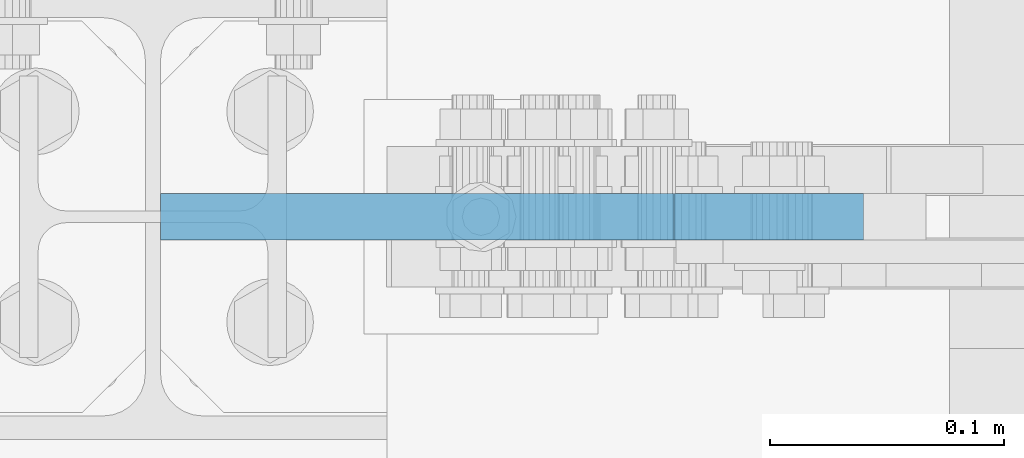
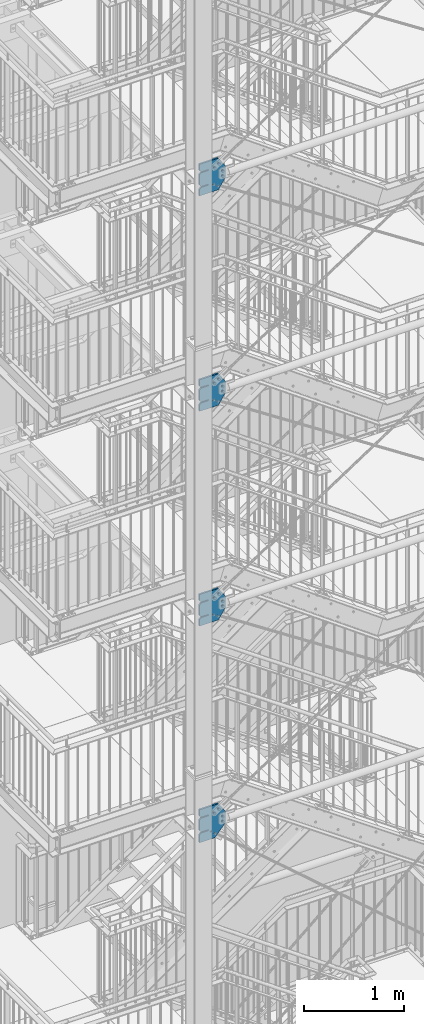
# One storey, part 154 of 821: 4 plates, 32 openings.
"""IFC2X3 building model written with IfcOpenShell, lengths in millimetres."""

from ifc_helpers import new_model, entity, si_unit, converted_unit, point, frame, frame_2d, origin, origin_with_axes, place, context, project, spatial, polyline, circle_curve, line_curve, trimmed, segment, composite_curve, circle, outline, extrude, material, layer, layer_set, element, save


model = new_model("IFC2X3")

# Units and contexts
model_context = context("Model", 3, precision=1e-09, world=origin_with_axes())
ifc_project = project(units=[si_unit("LENGTHUNIT", "METRE", prefix="MILLI"), si_unit("AREAUNIT", "SQUARE_METRE"), si_unit("VOLUMEUNIT", "CUBIC_METRE"), converted_unit("PLANEANGLEUNIT", "DEGREE", entity("IfcPlaneAngleMeasure", 0.01745329), si_unit("PLANEANGLEUNIT", "RADIAN"), dimensions=[0, 0, 0, 0, 0, 0, 0])], contexts=[model_context])

# Site, building, storey
site_placement = place(None, origin_with_axes())
site = spatial("IfcSite", under=ifc_project, at=site_placement, Name="Cnopf'sche Kinderklinik", CompositionType="ELEMENT")
building_placement = place(site_placement, origin_with_axes())
building = spatial("IfcBuilding", under=site, at=building_placement, Name="Struktur 1", CompositionType="ELEMENT")
storey_placement = place(building_placement, origin_with_axes())
storey = spatial("IfcBuildingStorey", under=building, at=storey_placement, Name="Default Storey", CompositionType="ELEMENT", Elevation=0.0)

# Plate, openings
ifc_material = material(Name="S235JR")
ifc_layer = layer(ifc_material, 20.0)
ifc_layer_set = layer_set([ifc_layer], Name="S235JR")
plate_1_placement = place(None, frame((4859.963402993, 4376.736971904, 7178.428402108), z_axis=(0.0, -1.0, 0.0), x_axis=(0.0, 0.0, -1.0)))
plate_1 = element("IfcPlate", 1, at=plate_1_placement, inside=storey, material=ifc_layer_set, Name="-", ObjectType="-", context=model_context, shape_type="SweptSolid", body=[
    extrude(outline(polyline([(0.0, 0.0), (404.06512209, 0.0), (404.06512209, 177.249749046), (263.428405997, 300.0), (123.428405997, 300.0), (0.0, 219.202103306), (0.0, 0.0)])), origin_with_axes(), (0.0, 0.0, 1.0), 20.0),
])
opening_1_placement = place(plate_1_placement, frame((0.0, 0.0, 20.1), z_axis=(0.0, 0.0, -1.0), x_axis=(0.0, -1.0, 0.0)))
element("IfcOpeningElement", 2, at=opening_1_placement, cuts=plate_1, ObjectType="Opening", context=model_context, shape_type="SweptSolid", body=[
    extrude(outline(composite_curve([segment(trimmed(line_curve((20.001, -257.427402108), (-1.0, 0.0), 20.001414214), [point((20.001, -257.427402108))], [point((-0.000414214, -257.427402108))], True, "CARTESIAN"), True, "CONTINUOUS"), segment(trimmed(line_curve((-0.000414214, -257.427402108), (-0.707106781, -0.707106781), 28.284271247), [point((-0.000414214, -257.427402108))], [point((-20.000414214, -277.427402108))], True, "CARTESIAN"), True, "CONTINUOUS"), segment(trimmed(line_curve((-20.000414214, -277.427402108), (-1.0, 0.0), 77.749584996), [point((-20.000414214, -277.427402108))], [point((-97.749999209, -277.427402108))], True, "CARTESIAN"), True, "CONTINUOUS"), segment(trimmed(circle_curve(frame_2d((-97.75, -283.428402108), x_axis=(1.0, 0.0)), 6.001), [point((-97.749999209, -277.427402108))], [point((-97.75, -289.429402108))], True, "CARTESIAN"), True, "CONTINUOUS"), segment(trimmed(line_curve((-97.75, -289.429402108), (1.0, 0.0), 77.749585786), [point((-97.75, -289.429402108))], [point((-20.000414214, -289.429402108))], True, "CARTESIAN"), True, "CONTINUOUS"), segment(trimmed(line_curve((-20.000414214, -289.429402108), (0.707106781, -0.707106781), 28.284271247), [point((-20.000414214, -289.429402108))], [point((-0.000414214, -309.429402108))], True, "CARTESIAN"), True, "CONTINUOUS"), segment(trimmed(line_curve((-0.000414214, -309.429402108), (1.0, 0.0), 20.001414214), [point((-0.000414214, -309.429402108))], [point((20.001, -309.429402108))], True, "CARTESIAN"), True, "CONTINUOUS"), segment(trimmed(line_curve((20.001, -309.429402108), (0.0, 1.0), 52.002), [point((20.001, -309.429402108))], [point((20.001, -257.427402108))], True, "CARTESIAN"), True, "CONTINUOUS")], self_intersect=False)), origin(), (0.0, 0.0, 1.0), 20.2),
])
opening_2_placement = place(plate_1_placement, frame((0.0, 0.0, 20.1), z_axis=(0.0, 0.0, -1.0), x_axis=(0.0, -1.0, 0.0)))
element("IfcOpeningElement", 3, at=opening_2_placement, cuts=plate_1, ObjectType="Opening", context=model_context, shape_type="SweptSolid", body=[
    extrude(outline(composite_curve([segment(trimmed(line_curve((20.001, -77.427402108), (-1.0, 0.0), 20.001414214), [point((20.001, -77.427402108))], [point((-0.000414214, -77.427402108))], True, "CARTESIAN"), True, "CONTINUOUS"), segment(trimmed(line_curve((-0.000414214, -77.427402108), (-0.707106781, -0.707106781), 28.284271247), [point((-0.000414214, -77.427402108))], [point((-20.000414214, -97.427402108))], True, "CARTESIAN"), True, "CONTINUOUS"), segment(trimmed(line_curve((-20.000414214, -97.427402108), (-1.0, 0.0), 77.749585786), [point((-20.000414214, -97.427402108))], [point((-97.75, -97.427402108))], True, "CARTESIAN"), True, "CONTINUOUS"), segment(trimmed(circle_curve(frame_2d((-97.75, -103.428402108), x_axis=(1.0, 0.0)), 6.001), [point((-97.75, -97.427402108))], [point((-97.75, -109.429402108))], True, "CARTESIAN"), True, "CONTINUOUS"), segment(trimmed(line_curve((-97.75, -109.429402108), (1.0, 0.0), 77.749585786), [point((-97.75, -109.429402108))], [point((-20.000414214, -109.429402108))], True, "CARTESIAN"), True, "CONTINUOUS"), segment(trimmed(line_curve((-20.000414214, -109.429402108), (0.707106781, -0.707106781), 28.284271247), [point((-20.000414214, -109.429402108))], [point((-0.000414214, -129.429402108))], True, "CARTESIAN"), True, "CONTINUOUS"), segment(trimmed(line_curve((-0.000414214, -129.429402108), (1.0, 0.0), 20.001414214), [point((-0.000414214, -129.429402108))], [point((20.001, -129.429402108))], True, "CARTESIAN"), True, "CONTINUOUS"), segment(trimmed(line_curve((20.001, -129.429402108), (0.0, 1.0), 52.002), [point((20.001, -129.429402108))], [point((20.001, -77.427402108))], True, "CARTESIAN"), True, "CONTINUOUS")], self_intersect=False)), origin(), (0.0, 0.0, 1.0), 20.2),
])
opening_3_placement = place(plate_1_placement, frame((163.428405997, 269.000998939, -0.5), z_axis=(0.0, 0.0, -1.0), x_axis=(-1.0, 0.0, 0.0)))
element("IfcOpeningElement", 4, at=opening_3_placement, cuts=plate_1, ObjectType="Opening", context=model_context, shape_type="SweptSolid", body=[
    extrude(circle(Radius=9.001, at=frame_2d((0.0, -9.001), x_axis=(1.0, 0.0))), origin(), (0.0, 0.0, -1.0), 21.0),
])
opening_4_placement = place(plate_1_placement, frame((223.428405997, 269.000998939, -0.5), z_axis=(0.0, 0.0, -1.0), x_axis=(-1.0, 0.0, 0.0)))
element("IfcOpeningElement", 5, at=opening_4_placement, cuts=plate_1, ObjectType="Opening", context=model_context, shape_type="SweptSolid", body=[
    extrude(circle(Radius=9.001, at=frame_2d((0.0, -9.001), x_axis=(1.0, 0.0))), origin(), (0.0, 0.0, -1.0), 21.0),
])
opening_5_placement = place(plate_1_placement, frame((68.933590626, 186.424883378, -0.5), z_axis=(0.0, 0.0, 1.0), x_axis=(-0.548720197, 0.836006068, 0.0)))
element("IfcOpeningElement", 6, at=opening_5_placement, cuts=plate_1, ObjectType="Opening", context=model_context, shape_type="SweptSolid", body=[
    extrude(circle(Radius=9.001, at=frame_2d((30.0, 0.0), x_axis=(1.0, 0.0))), origin(), (0.0, 0.0, 1.0), 21.0),
])
opening_6_placement = place(plate_1_placement, frame((68.933590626, 186.424883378, -0.5), z_axis=(0.0, 0.0, 1.0), x_axis=(-0.548720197, 0.836006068, 0.0)))
element("IfcOpeningElement", 7, at=opening_6_placement, cuts=plate_1, ObjectType="Opening", context=model_context, shape_type="SweptSolid", body=[
    extrude(circle(Radius=9.001, at=frame_2d((-30.0, 0.0), x_axis=(1.0, 0.0))), origin(), (0.0, 0.0, 1.0), 21.0),
])
opening_7_placement = place(plate_1_placement, frame((344.33129579, 170.985700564, -0.5), z_axis=(0.0, 0.0, -1.0), x_axis=(-1.0, 0.0, 0.0)))
element("IfcOpeningElement", 8, at=opening_7_placement, cuts=plate_1, ObjectType="Opening", context=model_context, shape_type="SweptSolid", body=[
    extrude(circle(Radius=9.001, at=frame_2d((-5.89276857, 6.803916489), x_axis=(1.0, 0.0))), origin(), (0.0, 0.0, -1.0), 21.0),
])
opening_8_placement = place(plate_1_placement, frame((305.05053652, 125.631296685, -0.5), z_axis=(0.0, 0.0, -1.0), x_axis=(-1.0, 0.0, 0.0)))
element("IfcOpeningElement", 9, at=opening_8_placement, cuts=plate_1, ObjectType="Opening", context=model_context, shape_type="SweptSolid", body=[
    extrude(circle(Radius=9.001, at=frame_2d((-5.89276857, 6.803916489), x_axis=(1.0, 0.0))), origin(), (0.0, 0.0, -1.0), 21.0),
])

plate_2_placement = place(None, frame((4859.963402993, 4376.736971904, 9810.428402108), z_axis=(0.0, -1.0, 0.0), x_axis=(0.0, 0.0, -1.0)))
plate_2 = element("IfcPlate", 10, at=plate_2_placement, inside=storey, material=ifc_layer_set, Name="-", ObjectType="-", context=model_context, shape_type="SweptSolid", body=[
    extrude(outline(polyline([(0.0, 0.0), (386.856811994, 0.0), (386.856811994, 219.202103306), (263.428405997, 300.0), (123.428405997, 300.0), (0.0, 219.202103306), (0.0, 0.0)])), origin_with_axes(), (0.0, 0.0, 1.0), 20.0),
])
opening_9_placement = place(plate_2_placement, frame((0.0, 0.0, 20.1), z_axis=(0.0, 0.0, -1.0), x_axis=(0.0, -1.0, 0.0)))
element("IfcOpeningElement", 11, at=opening_9_placement, cuts=plate_2, ObjectType="Opening", context=model_context, shape_type="SweptSolid", body=[
    extrude(outline(composite_curve([segment(trimmed(line_curve((20.001, -257.427402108), (-1.0, 0.0), 20.001414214), [point((20.001, -257.427402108))], [point((-0.000414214, -257.427402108))], True, "CARTESIAN"), True, "CONTINUOUS"), segment(trimmed(line_curve((-0.000414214, -257.427402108), (-0.707106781, -0.707106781), 28.284271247), [point((-0.000414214, -257.427402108))], [point((-20.000414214, -277.427402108))], True, "CARTESIAN"), True, "CONTINUOUS"), segment(trimmed(line_curve((-20.000414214, -277.427402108), (-1.0, 0.0), 77.749584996), [point((-20.000414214, -277.427402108))], [point((-97.749999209, -277.427402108))], True, "CARTESIAN"), True, "CONTINUOUS"), segment(trimmed(circle_curve(frame_2d((-97.75, -283.428402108), x_axis=(1.0, 0.0)), 6.001), [point((-97.749999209, -277.427402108))], [point((-97.75, -289.429402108))], True, "CARTESIAN"), True, "CONTINUOUS"), segment(trimmed(line_curve((-97.75, -289.429402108), (1.0, 0.0), 77.749585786), [point((-97.75, -289.429402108))], [point((-20.000414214, -289.429402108))], True, "CARTESIAN"), True, "CONTINUOUS"), segment(trimmed(line_curve((-20.000414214, -289.429402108), (0.707106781, -0.707106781), 28.284271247), [point((-20.000414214, -289.429402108))], [point((-0.000414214, -309.429402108))], True, "CARTESIAN"), True, "CONTINUOUS"), segment(trimmed(line_curve((-0.000414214, -309.429402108), (1.0, 0.0), 20.001414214), [point((-0.000414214, -309.429402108))], [point((20.001, -309.429402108))], True, "CARTESIAN"), True, "CONTINUOUS"), segment(trimmed(line_curve((20.001, -309.429402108), (0.0, 1.0), 52.002), [point((20.001, -309.429402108))], [point((20.001, -257.427402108))], True, "CARTESIAN"), True, "CONTINUOUS")], self_intersect=False)), origin(), (0.0, 0.0, 1.0), 20.2),
])
opening_10_placement = place(plate_2_placement, frame((0.0, 0.0, 20.1), z_axis=(0.0, 0.0, -1.0), x_axis=(0.0, -1.0, 0.0)))
element("IfcOpeningElement", 12, at=opening_10_placement, cuts=plate_2, ObjectType="Opening", context=model_context, shape_type="SweptSolid", body=[
    extrude(outline(composite_curve([segment(trimmed(line_curve((20.001, -77.427402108), (-1.0, 0.0), 20.001414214), [point((20.001, -77.427402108))], [point((-0.000414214, -77.427402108))], True, "CARTESIAN"), True, "CONTINUOUS"), segment(trimmed(line_curve((-0.000414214, -77.427402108), (-0.707106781, -0.707106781), 28.284271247), [point((-0.000414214, -77.427402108))], [point((-20.000414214, -97.427402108))], True, "CARTESIAN"), True, "CONTINUOUS"), segment(trimmed(line_curve((-20.000414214, -97.427402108), (-1.0, 0.0), 77.749585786), [point((-20.000414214, -97.427402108))], [point((-97.75, -97.427402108))], True, "CARTESIAN"), True, "CONTINUOUS"), segment(trimmed(circle_curve(frame_2d((-97.75, -103.428402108), x_axis=(1.0, 0.0)), 6.001), [point((-97.75, -97.427402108))], [point((-97.75, -109.429402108))], True, "CARTESIAN"), True, "CONTINUOUS"), segment(trimmed(line_curve((-97.75, -109.429402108), (1.0, 0.0), 77.749585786), [point((-97.75, -109.429402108))], [point((-20.000414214, -109.429402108))], True, "CARTESIAN"), True, "CONTINUOUS"), segment(trimmed(line_curve((-20.000414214, -109.429402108), (0.707106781, -0.707106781), 28.284271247), [point((-20.000414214, -109.429402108))], [point((-0.000414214, -129.429402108))], True, "CARTESIAN"), True, "CONTINUOUS"), segment(trimmed(line_curve((-0.000414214, -129.429402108), (1.0, 0.0), 20.001414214), [point((-0.000414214, -129.429402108))], [point((20.001, -129.429402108))], True, "CARTESIAN"), True, "CONTINUOUS"), segment(trimmed(line_curve((20.001, -129.429402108), (0.0, 1.0), 52.002), [point((20.001, -129.429402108))], [point((20.001, -77.427402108))], True, "CARTESIAN"), True, "CONTINUOUS")], self_intersect=False)), origin(), (0.0, 0.0, 1.0), 20.2),
])
opening_11_placement = place(plate_2_placement, frame((163.428405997, 269.000998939, -0.5), z_axis=(0.0, 0.0, -1.0), x_axis=(-1.0, 0.0, 0.0)))
element("IfcOpeningElement", 13, at=opening_11_placement, cuts=plate_2, ObjectType="Opening", context=model_context, shape_type="SweptSolid", body=[
    extrude(circle(Radius=9.001, at=frame_2d((0.0, -9.001), x_axis=(1.0, 0.0))), origin(), (0.0, 0.0, -1.0), 21.0),
])
opening_12_placement = place(plate_2_placement, frame((223.428405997, 269.000998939, -0.5), z_axis=(0.0, 0.0, -1.0), x_axis=(-1.0, 0.0, 0.0)))
element("IfcOpeningElement", 14, at=opening_12_placement, cuts=plate_2, ObjectType="Opening", context=model_context, shape_type="SweptSolid", body=[
    extrude(circle(Radius=9.001, at=frame_2d((0.0, -9.001), x_axis=(1.0, 0.0))), origin(), (0.0, 0.0, -1.0), 21.0),
])
opening_13_placement = place(plate_2_placement, frame((329.531485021, 204.110694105, -0.5), z_axis=(0.0, 0.0, -1.0), x_axis=(-1.0, 0.0, 0.0)))
element("IfcOpeningElement", 15, at=opening_13_placement, cuts=plate_2, ObjectType="Opening", context=model_context, shape_type="SweptSolid", body=[
    extrude(circle(Radius=9.001, at=frame_2d((-4.939030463, 7.524890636), x_axis=(1.0, 0.0))), origin(), (0.0, 0.0, -1.0), 21.0),
])
opening_14_placement = place(plate_2_placement, frame((296.608273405, 153.950329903, -0.5), z_axis=(0.0, 0.0, -1.0), x_axis=(-1.0, 0.0, 0.0)))
element("IfcOpeningElement", 16, at=opening_14_placement, cuts=plate_2, ObjectType="Opening", context=model_context, shape_type="SweptSolid", body=[
    extrude(circle(Radius=9.001, at=frame_2d((-4.939030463, 7.524890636), x_axis=(1.0, 0.0))), origin(), (0.0, 0.0, -1.0), 21.0),
])
opening_15_placement = place(plate_2_placement, frame((69.099118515, 186.533241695, -0.5), z_axis=(0.0, 0.0, 1.0), x_axis=(-0.547991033, 0.836484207, 0.0)))
element("IfcOpeningElement", 17, at=opening_15_placement, cuts=plate_2, ObjectType="Opening", context=model_context, shape_type="SweptSolid", body=[
    extrude(circle(Radius=9.001, at=frame_2d((30.0, 0.0), x_axis=(1.0, 0.0))), origin(), (0.0, 0.0, 1.0), 21.0),
])
opening_16_placement = place(plate_2_placement, frame((69.099118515, 186.533241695, -0.5), z_axis=(0.0, 0.0, 1.0), x_axis=(-0.547991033, 0.836484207, 0.0)))
element("IfcOpeningElement", 18, at=opening_16_placement, cuts=plate_2, ObjectType="Opening", context=model_context, shape_type="SweptSolid", body=[
    extrude(circle(Radius=9.001, at=frame_2d((-30.0, 0.0), x_axis=(1.0, 0.0))), origin(), (0.0, 0.0, 1.0), 21.0),
])

plate_3_placement = place(None, frame((4859.963402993, 4376.736971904, 12437.428402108), z_axis=(0.0, -1.0, 0.0), x_axis=(0.0, 0.0, -1.0)))
plate_3 = element("IfcPlate", 19, at=plate_3_placement, inside=storey, material=ifc_layer_set, Name="-", ObjectType="-", context=model_context, shape_type="SweptSolid", body=[
    extrude(outline(polyline([(0.0, 0.0), (386.856811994, 0.0), (386.856811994, 219.202103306), (263.428405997, 300.0), (123.428405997, 300.0), (0.0, 219.202103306), (0.0, 0.0)])), origin_with_axes(), (0.0, 0.0, 1.0), 20.0),
])
opening_17_placement = place(plate_3_placement, frame((0.0, 0.0, 20.1), z_axis=(0.0, 0.0, -1.0), x_axis=(0.0, -1.0, 0.0)))
element("IfcOpeningElement", 20, at=opening_17_placement, cuts=plate_3, ObjectType="Opening", context=model_context, shape_type="SweptSolid", body=[
    extrude(outline(composite_curve([segment(trimmed(line_curve((20.001, -77.427402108), (-1.0, 0.0), 20.001414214), [point((20.001, -77.427402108))], [point((-0.000414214, -77.427402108))], True, "CARTESIAN"), True, "CONTINUOUS"), segment(trimmed(line_curve((-0.000414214, -77.427402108), (-0.707106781, -0.707106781), 28.284271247), [point((-0.000414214, -77.427402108))], [point((-20.000414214, -97.427402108))], True, "CARTESIAN"), True, "CONTINUOUS"), segment(trimmed(line_curve((-20.000414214, -97.427402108), (-1.0, 0.0), 77.749585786), [point((-20.000414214, -97.427402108))], [point((-97.75, -97.427402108))], True, "CARTESIAN"), True, "CONTINUOUS"), segment(trimmed(circle_curve(frame_2d((-97.75, -103.428402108), x_axis=(1.0, 0.0)), 6.001), [point((-97.75, -97.427402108))], [point((-97.75, -109.429402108))], True, "CARTESIAN"), True, "CONTINUOUS"), segment(trimmed(line_curve((-97.75, -109.429402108), (1.0, 0.0), 77.749585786), [point((-97.75, -109.429402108))], [point((-20.000414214, -109.429402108))], True, "CARTESIAN"), True, "CONTINUOUS"), segment(trimmed(line_curve((-20.000414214, -109.429402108), (0.707106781, -0.707106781), 28.284271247), [point((-20.000414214, -109.429402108))], [point((-0.000414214, -129.429402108))], True, "CARTESIAN"), True, "CONTINUOUS"), segment(trimmed(line_curve((-0.000414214, -129.429402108), (1.0, 0.0), 20.001414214), [point((-0.000414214, -129.429402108))], [point((20.001, -129.429402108))], True, "CARTESIAN"), True, "CONTINUOUS"), segment(trimmed(line_curve((20.001, -129.429402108), (0.0, 1.0), 52.002), [point((20.001, -129.429402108))], [point((20.001, -77.427402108))], True, "CARTESIAN"), True, "CONTINUOUS")], self_intersect=False)), origin(), (0.0, 0.0, 1.0), 20.2),
])
opening_18_placement = place(plate_3_placement, frame((0.0, 0.0, 20.1), z_axis=(0.0, 0.0, -1.0), x_axis=(0.0, -1.0, 0.0)))
element("IfcOpeningElement", 21, at=opening_18_placement, cuts=plate_3, ObjectType="Opening", context=model_context, shape_type="SweptSolid", body=[
    extrude(outline(composite_curve([segment(trimmed(line_curve((20.001, -257.427402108), (-1.0, 0.0), 20.001414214), [point((20.001, -257.427402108))], [point((-0.000414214, -257.427402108))], True, "CARTESIAN"), True, "CONTINUOUS"), segment(trimmed(line_curve((-0.000414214, -257.427402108), (-0.707106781, -0.707106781), 28.284271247), [point((-0.000414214, -257.427402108))], [point((-20.000414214, -277.427402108))], True, "CARTESIAN"), True, "CONTINUOUS"), segment(trimmed(line_curve((-20.000414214, -277.427402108), (-1.0, 0.0), 77.749584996), [point((-20.000414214, -277.427402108))], [point((-97.749999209, -277.427402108))], True, "CARTESIAN"), True, "CONTINUOUS"), segment(trimmed(circle_curve(frame_2d((-97.75, -283.428402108), x_axis=(1.0, 0.0)), 6.001), [point((-97.749999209, -277.427402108))], [point((-97.75, -289.429402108))], True, "CARTESIAN"), True, "CONTINUOUS"), segment(trimmed(line_curve((-97.75, -289.429402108), (1.0, 0.0), 77.749585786), [point((-97.75, -289.429402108))], [point((-20.000414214, -289.429402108))], True, "CARTESIAN"), True, "CONTINUOUS"), segment(trimmed(line_curve((-20.000414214, -289.429402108), (0.707106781, -0.707106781), 28.284271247), [point((-20.000414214, -289.429402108))], [point((-0.000414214, -309.429402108))], True, "CARTESIAN"), True, "CONTINUOUS"), segment(trimmed(line_curve((-0.000414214, -309.429402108), (1.0, 0.0), 20.001414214), [point((-0.000414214, -309.429402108))], [point((20.001, -309.429402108))], True, "CARTESIAN"), True, "CONTINUOUS"), segment(trimmed(line_curve((20.001, -309.429402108), (0.0, 1.0), 52.002), [point((20.001, -309.429402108))], [point((20.001, -257.427402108))], True, "CARTESIAN"), True, "CONTINUOUS")], self_intersect=False)), origin(), (0.0, 0.0, 1.0), 20.2),
])
opening_19_placement = place(plate_3_placement, frame((163.428405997, 269.000998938, -0.5), z_axis=(0.0, 0.0, -1.0), x_axis=(-1.0, 0.0, 0.0)))
element("IfcOpeningElement", 22, at=opening_19_placement, cuts=plate_3, ObjectType="Opening", context=model_context, shape_type="SweptSolid", body=[
    extrude(circle(Radius=9.001, at=frame_2d((0.0, -9.001), x_axis=(1.0, 0.0))), origin(), (0.0, 0.0, -1.0), 21.0),
])
opening_20_placement = place(plate_3_placement, frame((223.428405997, 269.000998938, -0.5), z_axis=(0.0, 0.0, -1.0), x_axis=(-1.0, 0.0, 0.0)))
element("IfcOpeningElement", 23, at=opening_20_placement, cuts=plate_3, ObjectType="Opening", context=model_context, shape_type="SweptSolid", body=[
    extrude(circle(Radius=9.001, at=frame_2d((0.0, -9.001), x_axis=(1.0, 0.0))), origin(), (0.0, 0.0, -1.0), 21.0),
])
opening_21_placement = place(plate_3_placement, frame((329.349887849, 204.229358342, -0.5), z_axis=(0.0, 0.0, -1.0), x_axis=(-1.0, 0.0, 0.0)))
element("IfcOpeningElement", 24, at=opening_21_placement, cuts=plate_3, ObjectType="Opening", context=model_context, shape_type="SweptSolid", body=[
    extrude(circle(Radius=9.001, at=frame_2d((-4.93237078, 7.529257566), x_axis=(1.0, 0.0))), origin(), (0.0, 0.0, -1.0), 21.0),
])
opening_22_placement = place(plate_3_placement, frame((296.471069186, 154.039884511, -0.5), z_axis=(0.0, 0.0, -1.0), x_axis=(-1.0, 0.0, 0.0)))
element("IfcOpeningElement", 25, at=opening_22_placement, cuts=plate_3, ObjectType="Opening", context=model_context, shape_type="SweptSolid", body=[
    extrude(circle(Radius=9.001, at=frame_2d((-4.93237078, 7.529257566), x_axis=(1.0, 0.0))), origin(), (0.0, 0.0, -1.0), 21.0),
])
opening_23_placement = place(plate_3_placement, frame((68.834331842, 186.359934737, -0.5), z_axis=(0.0, 0.0, 1.0), x_axis=(-0.549157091, 0.835719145, 0.0)))
element("IfcOpeningElement", 26, at=opening_23_placement, cuts=plate_3, ObjectType="Opening", context=model_context, shape_type="SweptSolid", body=[
    extrude(circle(Radius=9.001, at=frame_2d((30.0, 0.0), x_axis=(1.0, 0.0))), origin(), (0.0, 0.0, 1.0), 21.0),
])
opening_24_placement = place(plate_3_placement, frame((68.834331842, 186.359934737, -0.5), z_axis=(0.0, 0.0, 1.0), x_axis=(-0.549157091, 0.835719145, 0.0)))
element("IfcOpeningElement", 27, at=opening_24_placement, cuts=plate_3, ObjectType="Opening", context=model_context, shape_type="SweptSolid", body=[
    extrude(circle(Radius=9.001, at=frame_2d((-30.0, 0.0), x_axis=(1.0, 0.0))), origin(), (0.0, 0.0, 1.0), 21.0),
])

plate_4_placement = place(None, frame((4859.963402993, 4376.736971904, 15072.428402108), z_axis=(0.0, -1.0, 0.0), x_axis=(0.0, 0.0, -1.0)))
plate_4 = element("IfcPlate", 28, at=plate_4_placement, inside=storey, material=ifc_layer_set, Name="-", ObjectType="-", context=model_context, shape_type="SweptSolid", body=[
    extrude(outline(polyline([(0.0, 0.0), (386.856811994, 0.0), (386.856811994, 219.202103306), (263.428405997, 300.0), (123.428405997, 300.0), (0.0, 219.202103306), (0.0, 0.0)])), origin_with_axes(), (0.0, 0.0, 1.0), 20.0),
])
opening_25_placement = place(plate_4_placement, frame((0.0, 0.0, 20.1), z_axis=(0.0, 0.0, -1.0), x_axis=(0.0, -1.0, 0.0)))
element("IfcOpeningElement", 29, at=opening_25_placement, cuts=plate_4, ObjectType="Opening", context=model_context, shape_type="SweptSolid", body=[
    extrude(outline(composite_curve([segment(trimmed(line_curve((20.001, -77.427402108), (-1.0, 0.0), 20.001414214), [point((20.001, -77.427402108))], [point((-0.000414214, -77.427402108))], True, "CARTESIAN"), True, "CONTINUOUS"), segment(trimmed(line_curve((-0.000414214, -77.427402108), (-0.707106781, -0.707106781), 28.284271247), [point((-0.000414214, -77.427402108))], [point((-20.000414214, -97.427402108))], True, "CARTESIAN"), True, "CONTINUOUS"), segment(trimmed(line_curve((-20.000414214, -97.427402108), (-1.0, 0.0), 77.749585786), [point((-20.000414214, -97.427402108))], [point((-97.75, -97.427402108))], True, "CARTESIAN"), True, "CONTINUOUS"), segment(trimmed(circle_curve(frame_2d((-97.75, -103.428402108), x_axis=(1.0, 0.0)), 6.001), [point((-97.75, -97.427402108))], [point((-97.75, -109.429402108))], True, "CARTESIAN"), True, "CONTINUOUS"), segment(trimmed(line_curve((-97.75, -109.429402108), (1.0, 0.0), 77.749585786), [point((-97.75, -109.429402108))], [point((-20.000414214, -109.429402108))], True, "CARTESIAN"), True, "CONTINUOUS"), segment(trimmed(line_curve((-20.000414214, -109.429402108), (0.707106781, -0.707106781), 28.284271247), [point((-20.000414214, -109.429402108))], [point((-0.000414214, -129.429402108))], True, "CARTESIAN"), True, "CONTINUOUS"), segment(trimmed(line_curve((-0.000414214, -129.429402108), (1.0, 0.0), 20.001414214), [point((-0.000414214, -129.429402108))], [point((20.001, -129.429402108))], True, "CARTESIAN"), True, "CONTINUOUS"), segment(trimmed(line_curve((20.001, -129.429402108), (0.0, 1.0), 52.002), [point((20.001, -129.429402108))], [point((20.001, -77.427402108))], True, "CARTESIAN"), True, "CONTINUOUS")], self_intersect=False)), origin(), (0.0, 0.0, 1.0), 20.2),
])
opening_26_placement = place(plate_4_placement, frame((0.0, 0.0, 20.1), z_axis=(0.0, 0.0, -1.0), x_axis=(0.0, -1.0, 0.0)))
element("IfcOpeningElement", 30, at=opening_26_placement, cuts=plate_4, ObjectType="Opening", context=model_context, shape_type="SweptSolid", body=[
    extrude(outline(composite_curve([segment(trimmed(line_curve((20.001, -257.427402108), (-1.0, 0.0), 20.001414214), [point((20.001, -257.427402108))], [point((-0.000414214, -257.427402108))], True, "CARTESIAN"), True, "CONTINUOUS"), segment(trimmed(line_curve((-0.000414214, -257.427402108), (-0.707106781, -0.707106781), 28.284271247), [point((-0.000414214, -257.427402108))], [point((-20.000414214, -277.427402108))], True, "CARTESIAN"), True, "CONTINUOUS"), segment(trimmed(line_curve((-20.000414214, -277.427402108), (-1.0, 0.0), 77.749584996), [point((-20.000414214, -277.427402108))], [point((-97.749999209, -277.427402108))], True, "CARTESIAN"), True, "CONTINUOUS"), segment(trimmed(circle_curve(frame_2d((-97.75, -283.428402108), x_axis=(1.0, 0.0)), 6.001), [point((-97.749999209, -277.427402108))], [point((-97.75, -289.429402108))], True, "CARTESIAN"), True, "CONTINUOUS"), segment(trimmed(line_curve((-97.75, -289.429402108), (1.0, 0.0), 77.749585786), [point((-97.75, -289.429402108))], [point((-20.000414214, -289.429402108))], True, "CARTESIAN"), True, "CONTINUOUS"), segment(trimmed(line_curve((-20.000414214, -289.429402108), (0.707106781, -0.707106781), 28.284271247), [point((-20.000414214, -289.429402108))], [point((-0.000414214, -309.429402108))], True, "CARTESIAN"), True, "CONTINUOUS"), segment(trimmed(line_curve((-0.000414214, -309.429402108), (1.0, 0.0), 20.001414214), [point((-0.000414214, -309.429402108))], [point((20.001, -309.429402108))], True, "CARTESIAN"), True, "CONTINUOUS"), segment(trimmed(line_curve((20.001, -309.429402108), (0.0, 1.0), 52.002), [point((20.001, -309.429402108))], [point((20.001, -257.427402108))], True, "CARTESIAN"), True, "CONTINUOUS")], self_intersect=False)), origin(), (0.0, 0.0, 1.0), 20.2),
])
opening_27_placement = place(plate_4_placement, frame((163.428405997, 269.000998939, -0.5), z_axis=(0.0, 0.0, -1.0), x_axis=(-1.0, 0.0, 0.0)))
element("IfcOpeningElement", 31, at=opening_27_placement, cuts=plate_4, ObjectType="Opening", context=model_context, shape_type="SweptSolid", body=[
    extrude(circle(Radius=9.001, at=frame_2d((0.0, -9.001), x_axis=(1.0, 0.0))), origin(), (0.0, 0.0, -1.0), 21.0),
])
opening_28_placement = place(plate_4_placement, frame((223.428405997, 269.000998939, -0.5), z_axis=(0.0, 0.0, -1.0), x_axis=(-1.0, 0.0, 0.0)))
element("IfcOpeningElement", 32, at=opening_28_placement, cuts=plate_4, ObjectType="Opening", context=model_context, shape_type="SweptSolid", body=[
    extrude(circle(Radius=9.001, at=frame_2d((0.0, -9.001), x_axis=(1.0, 0.0))), origin(), (0.0, 0.0, -1.0), 21.0),
])
opening_29_placement = place(plate_4_placement, frame((329.640029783, 204.039795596, -0.5), z_axis=(0.0, 0.0, -1.0), x_axis=(-1.0, 0.0, 0.0)))
element("IfcOpeningElement", 33, at=opening_29_placement, cuts=plate_4, ObjectType="Opening", context=model_context, shape_type="SweptSolid", body=[
    extrude(circle(Radius=9.001, at=frame_2d((-4.942962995, 7.522308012), x_axis=(1.0, 0.0))), origin(), (0.0, 0.0, -1.0), 21.0),
])
opening_30_placement = place(plate_4_placement, frame((296.690604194, 153.896646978, -0.5), z_axis=(0.0, 0.0, -1.0), x_axis=(-1.0, 0.0, 0.0)))
element("IfcOpeningElement", 34, at=opening_30_placement, cuts=plate_4, ObjectType="Opening", context=model_context, shape_type="SweptSolid", body=[
    extrude(circle(Radius=9.001, at=frame_2d((-4.942962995, 7.522308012), x_axis=(1.0, 0.0))), origin(), (0.0, 0.0, -1.0), 21.0),
])
opening_31_placement = place(plate_4_placement, frame((69.331094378, 186.68519837, -0.5), z_axis=(0.0, 0.0, 1.0), x_axis=(-0.546968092, 0.837153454, 0.0)))
element("IfcOpeningElement", 35, at=opening_31_placement, cuts=plate_4, ObjectType="Opening", context=model_context, shape_type="SweptSolid", body=[
    extrude(circle(Radius=9.001, at=frame_2d((30.0, 0.0), x_axis=(1.0, 0.0))), origin(), (0.0, 0.0, 1.0), 21.0),
])
opening_32_placement = place(plate_4_placement, frame((69.331094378, 186.68519837, -0.5), z_axis=(0.0, 0.0, 1.0), x_axis=(-0.546968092, 0.837153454, 0.0)))
element("IfcOpeningElement", 36, at=opening_32_placement, cuts=plate_4, ObjectType="Opening", context=model_context, shape_type="SweptSolid", body=[
    extrude(circle(Radius=9.001, at=frame_2d((-30.0, 0.0), x_axis=(1.0, 0.0))), origin(), (0.0, 0.0, 1.0), 21.0),
])

save(model, "model.ifc")
